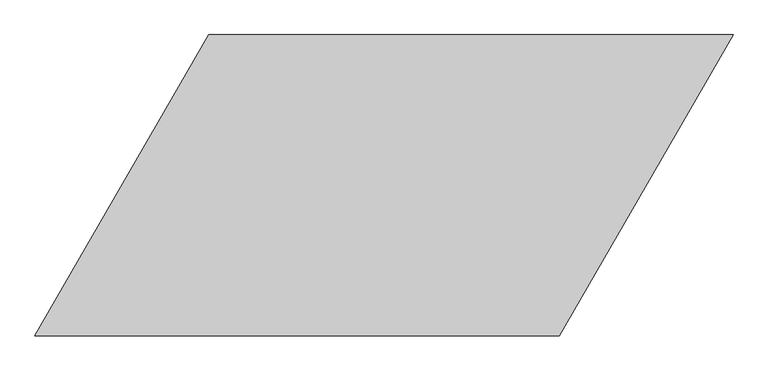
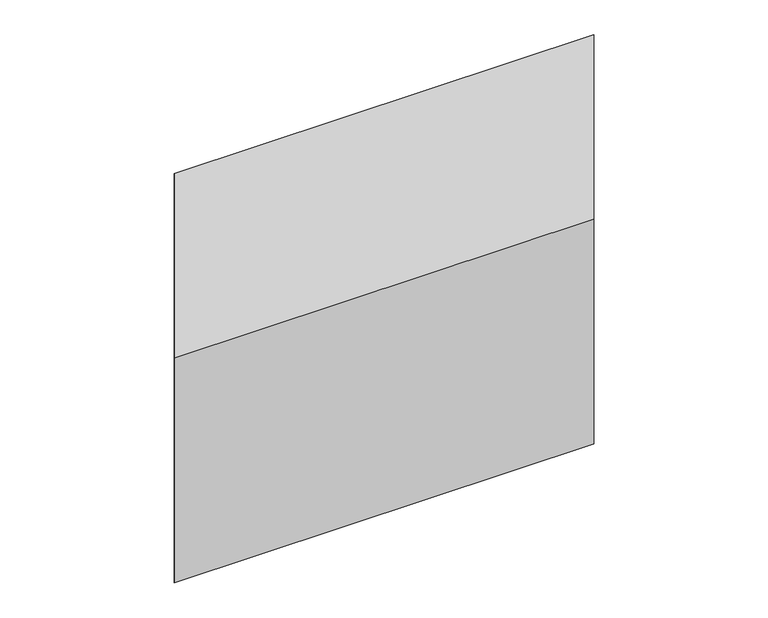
"""IFC4 building model written with IfcOpenShell, lengths in millimetres: furniture geometry, Hive Parallelogram Ottoman Left-Handed : Hive Parallelogram Ottoman Left-Handed."""

from ifc_helpers import new_model, si_unit, origin, origin_with_axes, place, context, project, spatial, polyline, outline, extrude, source, transform, mapped, element, save


def furniture_4c03583b(model_context):
    return source(origin(), model_context, "Body", "SweptSolid", [
        extrude(outline(polyline([(-415.0, 238.4), (415.0, 238.4), (139.7223713, -238.4), (-690.2776287, -238.4), (-415.0, 238.4)])), origin_with_axes(), (0.0, 0.0, 1.0), 470.0),
    ])


if __name__ == "__main__":
    model = new_model("IFC4")
    model_context = context("Model", 3, world=origin())
    ifc_project = project(units=[si_unit("LENGTHUNIT", "METRE", prefix="MILLI")], contexts=[model_context])
    site = spatial("IfcSite", under=ifc_project)
    building = spatial("IfcBuilding", under=site)
    placement = place(None, origin())
    furniture_shape = furniture_4c03583b(model_context)
    element("IfcFurniture", 1, ObjectType="Hive Parallelogram Ottoman Left-Handed : Hive Parallelogram Ottoman Left-Handed", at=placement, inside=building, context=model_context, shape_type="MappedRepresentation", body=[
        mapped(furniture_shape, transform((0.0, 0.0, 0.0), x_axis=(1.0, 0.0, 0.0), y_axis=(0.0, 1.0, 0.0), z_axis=(0.0, 0.0, 1.0))),
    ])
    save(model, "model.ifc")
